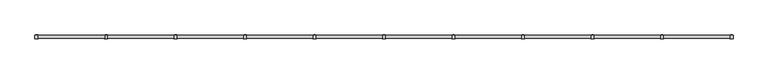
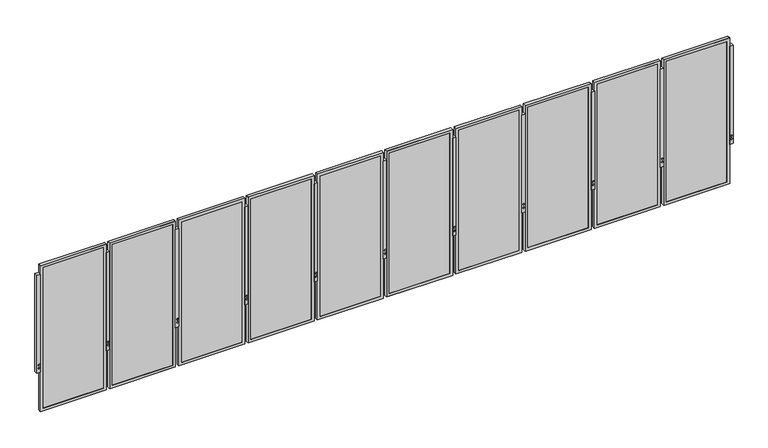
"""IFC4 building model written with IfcOpenShell, lengths in millimetres: railing geometry, Railing - Amico Architectural - Expanded Mesh Railing - Apex02."""

from ifc_helpers import new_model, si_unit, frame, origin, place, context, project, spatial, polyline, outline, extrude, faceted_brep, source, transform, mapped, element, save


def railing_57754099(model_context):
    return source(origin(), model_context, "Body", "SolidModel", [
        extrude(outline(polyline([(-3156.8501539, -22704.7707363), (-3106.0501539, -22704.7707363), (-3106.0501539, -22755.5707363), (-3156.8501539, -22755.5707363), (-3156.8501539, -22704.7707363)])), frame((0.0, 0.0, -609.6), z_axis=(0.0, 0.0, 1.0), x_axis=(1.0, 0.0, 0.0)), (0.0, 0.0, 1.0), 1524.0),
        extrude(outline(polyline([(-530.1129981, -3141.8707241), (-542.3802561, -3138.5837222), (-545.667258, -3126.3164642), (-536.6870019, -3117.3362081), (-524.4197439, -3120.6232099), (-521.132742, -3132.8904679), (-530.1129981, -3141.8707241)])), frame((0.0, -22757.4174241, 0.0), z_axis=(0.0, 1.0, 0.0), x_axis=(0.0, 0.0, 1.0)), (0.0, 0.0, 1.0), 54.4933756),
        extrude(outline(polyline([(-479.3129981, -3141.8707241), (-491.5802561, -3138.5837222), (-494.867258, -3126.3164642), (-485.8870019, -3117.3362081), (-473.6197439, -3120.6232099), (-470.332742, -3132.8904679), (-479.3129981, -3141.8707241)])), frame((0.0, -22757.4174241, 0.0), z_axis=(0.0, 1.0, 0.0), x_axis=(0.0, 0.0, 1.0)), (0.0, 0.0, 1.0), 54.4933756),
        faceted_brep([(-4123.2546073, -22751.9639363, -1222.375), (-3154.8796073, -22751.9639363, -1222.375), (-3154.8796073, -22751.9639363, 1044.575), (-4123.2546073, -22751.9639363, 1044.575), (-4081.9796073, -22751.9639363, 1003.3), (-3196.1546073, -22751.9639363, 1003.3), (-3196.1546073, -22751.9639363, -1181.1), (-4081.9796073, -22751.9639363, -1181.1), (-4081.9796073, -22749.2207363, 1003.3), (-4081.9796073, -22749.2207363, -1181.1), (-4123.2546073, -22708.0906398, 1044.575), (-4123.2546073, -22708.0906398, -1222.375), (-4120.0796073, -22708.0906398, 1041.4), (-4120.0796073, -22749.2207363, 1041.4), (-4120.0796073, -22749.2207363, -1219.2), (-4120.0796073, -22708.0906398, -1219.2), (-3196.1546073, -22749.2207363, -1181.1), (-3154.8796073, -22708.0906398, -1222.375), (-3158.0546073, -22749.2207363, -1219.2), (-3158.0546073, -22708.0906398, -1219.2), (-3196.1546073, -22749.2207363, 1003.3), (-3154.8796073, -22708.0906398, 1044.575), (-3158.0546073, -22749.2207363, 1041.4), (-3158.0546073, -22708.0906398, 1041.4)], [[[0, 1, 2, 3], [4, 5, 6, 7]], [[8, 4, 7, 9]], [[3, 10, 11, 0]], [[12, 13, 14, 15]], [[9, 7, 6, 16]], [[0, 11, 17, 1]], [[15, 14, 18, 19]], [[16, 6, 5, 20]], [[1, 17, 21, 2]], [[19, 18, 22, 23]], [[20, 5, 4, 8]], [[10, 21, 17, 11], [15, 19, 23, 12]], [[2, 21, 10, 3]], [[13, 22, 18, 14], [9, 16, 20, 8]], [[23, 22, 13, 12]]]),
        extrude(outline(polyline([(-4120.0796073, -22739.6957363), (-3158.0546073, -22739.6957363), (-3158.0546073, -22749.2207363), (-4120.0796073, -22749.2207363), (-4120.0796073, -22739.6957363)])), frame((0.0, 0.0, -1219.2), z_axis=(0.0, 0.0, 1.0), x_axis=(1.0, 0.0, 0.0)), (0.0, 0.0, 1.0), 2260.6),
        extrude(outline(polyline([(-4174.4376539, -22704.7707363), (-4123.6376539, -22704.7707363), (-4123.6376539, -22755.5707363), (-4174.4376539, -22755.5707363), (-4174.4376539, -22704.7707363)])), frame((0.0, 0.0, -609.6), z_axis=(0.0, 0.0, 1.0), x_axis=(1.0, 0.0, 0.0)), (0.0, 0.0, 1.0), 1524.0),
        extrude(outline(polyline([(-530.1129981, -4159.4582241), (-542.3802561, -4156.1712222), (-545.667258, -4143.9039642), (-536.6870019, -4134.9237081), (-524.4197439, -4138.2107099), (-521.132742, -4150.4779679), (-530.1129981, -4159.4582241)])), frame((0.0, -22757.4174241, 0.0), z_axis=(0.0, 1.0, 0.0), x_axis=(0.0, 0.0, 1.0)), (0.0, 0.0, 1.0), 54.4933756),
        extrude(outline(polyline([(-479.3129981, -4159.4582241), (-491.5802561, -4156.1712222), (-494.867258, -4143.9039642), (-485.8870019, -4134.9237081), (-473.6197439, -4138.2107099), (-470.332742, -4150.4779679), (-479.3129981, -4159.4582241)])), frame((0.0, -22757.4174241, 0.0), z_axis=(0.0, 1.0, 0.0), x_axis=(0.0, 0.0, 1.0)), (0.0, 0.0, 1.0), 54.4933756),
        faceted_brep([(-5140.8421073, -22751.9639363, -1222.375), (-4172.4671073, -22751.9639363, -1222.375), (-4172.4671073, -22751.9639363, 1044.575), (-5140.8421073, -22751.9639363, 1044.575), (-5099.5671073, -22751.9639363, 1003.3), (-4213.7421073, -22751.9639363, 1003.3), (-4213.7421073, -22751.9639363, -1181.1), (-5099.5671073, -22751.9639363, -1181.1), (-5099.5671073, -22749.2207363, 1003.3), (-5099.5671073, -22749.2207363, -1181.1), (-5140.8421073, -22708.0906398, 1044.575), (-5140.8421073, -22708.0906398, -1222.375), (-5137.6671073, -22708.0906398, 1041.4), (-5137.6671073, -22749.2207363, 1041.4), (-5137.6671073, -22749.2207363, -1219.2), (-5137.6671073, -22708.0906398, -1219.2), (-4213.7421073, -22749.2207363, -1181.1), (-4172.4671073, -22708.0906398, -1222.375), (-4175.6421073, -22749.2207363, -1219.2), (-4175.6421073, -22708.0906398, -1219.2), (-4213.7421073, -22749.2207363, 1003.3), (-4172.4671073, -22708.0906398, 1044.575), (-4175.6421073, -22749.2207363, 1041.4), (-4175.6421073, -22708.0906398, 1041.4)], [[[0, 1, 2, 3], [4, 5, 6, 7]], [[8, 4, 7, 9]], [[3, 10, 11, 0]], [[12, 13, 14, 15]], [[9, 7, 6, 16]], [[0, 11, 17, 1]], [[15, 14, 18, 19]], [[16, 6, 5, 20]], [[1, 17, 21, 2]], [[19, 18, 22, 23]], [[20, 5, 4, 8]], [[10, 21, 17, 11], [15, 19, 23, 12]], [[2, 21, 10, 3]], [[13, 22, 18, 14], [9, 16, 20, 8]], [[23, 22, 13, 12]]]),
        extrude(outline(polyline([(-5137.6671073, -22739.6957363), (-4175.6421073, -22739.6957363), (-4175.6421073, -22749.2207363), (-5137.6671073, -22749.2207363), (-5137.6671073, -22739.6957363)])), frame((0.0, 0.0, -1219.2), z_axis=(0.0, 0.0, 1.0), x_axis=(1.0, 0.0, 0.0)), (0.0, 0.0, 1.0), 2260.6),
        extrude(outline(polyline([(-5192.0251539, -22704.7707363), (-5141.2251539, -22704.7707363), (-5141.2251539, -22755.5707363), (-5192.0251539, -22755.5707363), (-5192.0251539, -22704.7707363)])), frame((0.0, 0.0, -609.6), z_axis=(0.0, 0.0, 1.0), x_axis=(1.0, 0.0, 0.0)), (0.0, 0.0, 1.0), 1524.0),
        extrude(outline(polyline([(-530.1129981, -5177.0457241), (-542.3802561, -5173.7587222), (-545.667258, -5161.4914642), (-536.6870019, -5152.5112081), (-524.4197439, -5155.7982099), (-521.132742, -5168.0654679), (-530.1129981, -5177.0457241)])), frame((0.0, -22757.4174241, 0.0), z_axis=(0.0, 1.0, 0.0), x_axis=(0.0, 0.0, 1.0)), (0.0, 0.0, 1.0), 54.4933756),
        extrude(outline(polyline([(-479.3129981, -5177.0457241), (-491.5802561, -5173.7587222), (-494.867258, -5161.4914642), (-485.8870019, -5152.5112081), (-473.6197439, -5155.7982099), (-470.332742, -5168.0654679), (-479.3129981, -5177.0457241)])), frame((0.0, -22757.4174241, 0.0), z_axis=(0.0, 1.0, 0.0), x_axis=(0.0, 0.0, 1.0)), (0.0, 0.0, 1.0), 54.4933756),
        faceted_brep([(-6158.4296073, -22751.9639363, -1222.375), (-5190.0546073, -22751.9639363, -1222.375), (-5190.0546073, -22751.9639363, 1044.575), (-6158.4296073, -22751.9639363, 1044.575), (-6117.1546073, -22751.9639363, 1003.3), (-5231.3296073, -22751.9639363, 1003.3), (-5231.3296073, -22751.9639363, -1181.1), (-6117.1546073, -22751.9639363, -1181.1), (-6117.1546073, -22749.2207363, 1003.3), (-6117.1546073, -22749.2207363, -1181.1), (-6158.4296073, -22708.0906398, 1044.575), (-6158.4296073, -22708.0906398, -1222.375), (-6155.2546073, -22708.0906398, 1041.4), (-6155.2546073, -22749.2207363, 1041.4), (-6155.2546073, -22749.2207363, -1219.2), (-6155.2546073, -22708.0906398, -1219.2), (-5231.3296073, -22749.2207363, -1181.1), (-5190.0546073, -22708.0906398, -1222.375), (-5193.2296073, -22749.2207363, -1219.2), (-5193.2296073, -22708.0906398, -1219.2), (-5231.3296073, -22749.2207363, 1003.3), (-5190.0546073, -22708.0906398, 1044.575), (-5193.2296073, -22749.2207363, 1041.4), (-5193.2296073, -22708.0906398, 1041.4)], [[[0, 1, 2, 3], [4, 5, 6, 7]], [[8, 4, 7, 9]], [[3, 10, 11, 0]], [[12, 13, 14, 15]], [[9, 7, 6, 16]], [[0, 11, 17, 1]], [[15, 14, 18, 19]], [[16, 6, 5, 20]], [[1, 17, 21, 2]], [[19, 18, 22, 23]], [[20, 5, 4, 8]], [[10, 21, 17, 11], [15, 19, 23, 12]], [[2, 21, 10, 3]], [[13, 22, 18, 14], [9, 16, 20, 8]], [[23, 22, 13, 12]]]),
        extrude(outline(polyline([(-6155.2546073, -22739.6957363), (-5193.2296073, -22739.6957363), (-5193.2296073, -22749.2207363), (-6155.2546073, -22749.2207363), (-6155.2546073, -22739.6957363)])), frame((0.0, 0.0, -1219.2), z_axis=(0.0, 0.0, 1.0), x_axis=(1.0, 0.0, 0.0)), (0.0, 0.0, 1.0), 2260.6),
        extrude(outline(polyline([(-6209.6126539, -22704.7707363), (-6158.8126539, -22704.7707363), (-6158.8126539, -22755.5707363), (-6209.6126539, -22755.5707363), (-6209.6126539, -22704.7707363)])), frame((0.0, 0.0, -609.6), z_axis=(0.0, 0.0, 1.0), x_axis=(1.0, 0.0, 0.0)), (0.0, 0.0, 1.0), 1524.0),
        extrude(outline(polyline([(-530.1129981, -6194.6332241), (-542.3802561, -6191.3462222), (-545.667258, -6179.0789642), (-536.6870019, -6170.0987081), (-524.4197439, -6173.3857099), (-521.132742, -6185.6529679), (-530.1129981, -6194.6332241)])), frame((0.0, -22757.4174241, 0.0), z_axis=(0.0, 1.0, 0.0), x_axis=(0.0, 0.0, 1.0)), (0.0, 0.0, 1.0), 54.4933756),
        extrude(outline(polyline([(-479.3129981, -6194.6332241), (-491.5802561, -6191.3462222), (-494.867258, -6179.0789642), (-485.8870019, -6170.0987081), (-473.6197439, -6173.3857099), (-470.332742, -6185.6529679), (-479.3129981, -6194.6332241)])), frame((0.0, -22757.4174241, 0.0), z_axis=(0.0, 1.0, 0.0), x_axis=(0.0, 0.0, 1.0)), (0.0, 0.0, 1.0), 54.4933756),
        faceted_brep([(-7176.0171073, -22751.9639363, -1222.375), (-6207.6421073, -22751.9639363, -1222.375), (-6207.6421073, -22751.9639363, 1044.575), (-7176.0171073, -22751.9639363, 1044.575), (-7134.7421073, -22751.9639363, 1003.3), (-6248.9171073, -22751.9639363, 1003.3), (-6248.9171073, -22751.9639363, -1181.1), (-7134.7421073, -22751.9639363, -1181.1), (-7134.7421073, -22749.2207363, 1003.3), (-7134.7421073, -22749.2207363, -1181.1), (-7176.0171073, -22708.0906398, 1044.575), (-7176.0171073, -22708.0906398, -1222.375), (-7172.8421073, -22708.0906398, 1041.4), (-7172.8421073, -22749.2207363, 1041.4), (-7172.8421073, -22749.2207363, -1219.2), (-7172.8421073, -22708.0906398, -1219.2), (-6248.9171073, -22749.2207363, -1181.1), (-6207.6421073, -22708.0906398, -1222.375), (-6210.8171073, -22749.2207363, -1219.2), (-6210.8171073, -22708.0906398, -1219.2), (-6248.9171073, -22749.2207363, 1003.3), (-6207.6421073, -22708.0906398, 1044.575), (-6210.8171073, -22749.2207363, 1041.4), (-6210.8171073, -22708.0906398, 1041.4)], [[[0, 1, 2, 3], [4, 5, 6, 7]], [[8, 4, 7, 9]], [[3, 10, 11, 0]], [[12, 13, 14, 15]], [[9, 7, 6, 16]], [[0, 11, 17, 1]], [[15, 14, 18, 19]], [[16, 6, 5, 20]], [[1, 17, 21, 2]], [[19, 18, 22, 23]], [[20, 5, 4, 8]], [[10, 21, 17, 11], [15, 19, 23, 12]], [[2, 21, 10, 3]], [[13, 22, 18, 14], [9, 16, 20, 8]], [[23, 22, 13, 12]]]),
        extrude(outline(polyline([(-7172.8421073, -22739.6957363), (-6210.8171073, -22739.6957363), (-6210.8171073, -22749.2207363), (-7172.8421073, -22749.2207363), (-7172.8421073, -22739.6957363)])), frame((0.0, 0.0, -1219.2), z_axis=(0.0, 0.0, 1.0), x_axis=(1.0, 0.0, 0.0)), (0.0, 0.0, 1.0), 2260.6),
        extrude(outline(polyline([(-7227.2001539, -22704.7707363), (-7176.4001539, -22704.7707363), (-7176.4001539, -22755.5707363), (-7227.2001539, -22755.5707363), (-7227.2001539, -22704.7707363)])), frame((0.0, 0.0, -609.6), z_axis=(0.0, 0.0, 1.0), x_axis=(1.0, 0.0, 0.0)), (0.0, 0.0, 1.0), 1524.0),
        extrude(outline(polyline([(-530.1129981, -7212.2207241), (-542.3802561, -7208.9337222), (-545.667258, -7196.6664642), (-536.6870019, -7187.6862081), (-524.4197439, -7190.9732099), (-521.132742, -7203.2404679), (-530.1129981, -7212.2207241)])), frame((0.0, -22757.4174241, 0.0), z_axis=(0.0, 1.0, 0.0), x_axis=(0.0, 0.0, 1.0)), (0.0, 0.0, 1.0), 54.4933756),
        extrude(outline(polyline([(-479.3129981, -7212.2207241), (-491.5802561, -7208.9337222), (-494.867258, -7196.6664642), (-485.8870019, -7187.6862081), (-473.6197439, -7190.9732099), (-470.332742, -7203.2404679), (-479.3129981, -7212.2207241)])), frame((0.0, -22757.4174241, 0.0), z_axis=(0.0, 1.0, 0.0), x_axis=(0.0, 0.0, 1.0)), (0.0, 0.0, 1.0), 54.4933756),
        faceted_brep([(-8193.6046073, -22751.9639363, -1222.375), (-7225.2296073, -22751.9639363, -1222.375), (-7225.2296073, -22751.9639363, 1044.575), (-8193.6046073, -22751.9639363, 1044.575), (-8152.3296073, -22751.9639363, 1003.3), (-7266.5046073, -22751.9639363, 1003.3), (-7266.5046073, -22751.9639363, -1181.1), (-8152.3296073, -22751.9639363, -1181.1), (-8152.3296073, -22749.2207363, 1003.3), (-8152.3296073, -22749.2207363, -1181.1), (-8193.6046073, -22708.0906398, 1044.575), (-8193.6046073, -22708.0906398, -1222.375), (-8190.4296073, -22708.0906398, 1041.4), (-8190.4296073, -22749.2207363, 1041.4), (-8190.4296073, -22749.2207363, -1219.2), (-8190.4296073, -22708.0906398, -1219.2), (-7266.5046073, -22749.2207363, -1181.1), (-7225.2296073, -22708.0906398, -1222.375), (-7228.4046073, -22749.2207363, -1219.2), (-7228.4046073, -22708.0906398, -1219.2), (-7266.5046073, -22749.2207363, 1003.3), (-7225.2296073, -22708.0906398, 1044.575), (-7228.4046073, -22749.2207363, 1041.4), (-7228.4046073, -22708.0906398, 1041.4)], [[[0, 1, 2, 3], [4, 5, 6, 7]], [[8, 4, 7, 9]], [[3, 10, 11, 0]], [[12, 13, 14, 15]], [[9, 7, 6, 16]], [[0, 11, 17, 1]], [[15, 14, 18, 19]], [[16, 6, 5, 20]], [[1, 17, 21, 2]], [[19, 18, 22, 23]], [[20, 5, 4, 8]], [[10, 21, 17, 11], [15, 19, 23, 12]], [[2, 21, 10, 3]], [[13, 22, 18, 14], [9, 16, 20, 8]], [[23, 22, 13, 12]]]),
        extrude(outline(polyline([(-8190.4296073, -22739.6957363), (-7228.4046073, -22739.6957363), (-7228.4046073, -22749.2207363), (-8190.4296073, -22749.2207363), (-8190.4296073, -22739.6957363)])), frame((0.0, 0.0, -1219.2), z_axis=(0.0, 0.0, 1.0), x_axis=(1.0, 0.0, 0.0)), (0.0, 0.0, 1.0), 2260.6),
        extrude(outline(polyline([(-8244.7876539, -22704.7707363), (-8193.9876539, -22704.7707363), (-8193.9876539, -22755.5707363), (-8244.7876539, -22755.5707363), (-8244.7876539, -22704.7707363)])), frame((0.0, 0.0, -609.6), z_axis=(0.0, 0.0, 1.0), x_axis=(1.0, 0.0, 0.0)), (0.0, 0.0, 1.0), 1524.0),
        extrude(outline(polyline([(-530.1129981, -8229.8082241), (-542.3802561, -8226.5212222), (-545.667258, -8214.2539642), (-536.6870019, -8205.2737081), (-524.4197439, -8208.5607099), (-521.132742, -8220.8279679), (-530.1129981, -8229.8082241)])), frame((0.0, -22757.4174241, 0.0), z_axis=(0.0, 1.0, 0.0), x_axis=(0.0, 0.0, 1.0)), (0.0, 0.0, 1.0), 54.4933756),
        extrude(outline(polyline([(-479.3129981, -8229.8082241), (-491.5802561, -8226.5212222), (-494.867258, -8214.2539642), (-485.8870019, -8205.2737081), (-473.6197439, -8208.5607099), (-470.332742, -8220.8279679), (-479.3129981, -8229.8082241)])), frame((0.0, -22757.4174241, 0.0), z_axis=(0.0, 1.0, 0.0), x_axis=(0.0, 0.0, 1.0)), (0.0, 0.0, 1.0), 54.4933756),
        faceted_brep([(-9211.1921073, -22751.9639363, -1222.375), (-8242.8171073, -22751.9639363, -1222.375), (-8242.8171073, -22751.9639363, 1044.575), (-9211.1921073, -22751.9639363, 1044.575), (-9169.9171073, -22751.9639363, 1003.3), (-8284.0921073, -22751.9639363, 1003.3), (-8284.0921073, -22751.9639363, -1181.1), (-9169.9171073, -22751.9639363, -1181.1), (-9169.9171073, -22749.2207363, 1003.3), (-9169.9171073, -22749.2207363, -1181.1), (-9211.1921073, -22708.0906398, 1044.575), (-9211.1921073, -22708.0906398, -1222.375), (-9208.0171073, -22708.0906398, 1041.4), (-9208.0171073, -22749.2207363, 1041.4), (-9208.0171073, -22749.2207363, -1219.2), (-9208.0171073, -22708.0906398, -1219.2), (-8284.0921073, -22749.2207363, -1181.1), (-8242.8171073, -22708.0906398, -1222.375), (-8245.9921073, -22749.2207363, -1219.2), (-8245.9921073, -22708.0906398, -1219.2), (-8284.0921073, -22749.2207363, 1003.3), (-8242.8171073, -22708.0906398, 1044.575), (-8245.9921073, -22749.2207363, 1041.4), (-8245.9921073, -22708.0906398, 1041.4)], [[[0, 1, 2, 3], [4, 5, 6, 7]], [[8, 4, 7, 9]], [[3, 10, 11, 0]], [[12, 13, 14, 15]], [[9, 7, 6, 16]], [[0, 11, 17, 1]], [[15, 14, 18, 19]], [[16, 6, 5, 20]], [[1, 17, 21, 2]], [[19, 18, 22, 23]], [[20, 5, 4, 8]], [[10, 21, 17, 11], [15, 19, 23, 12]], [[2, 21, 10, 3]], [[13, 22, 18, 14], [9, 16, 20, 8]], [[23, 22, 13, 12]]]),
        extrude(outline(polyline([(-9208.0171073, -22739.6957363), (-8245.9921073, -22739.6957363), (-8245.9921073, -22749.2207363), (-9208.0171073, -22749.2207363), (-9208.0171073, -22739.6957363)])), frame((0.0, 0.0, -1219.2), z_axis=(0.0, 0.0, 1.0), x_axis=(1.0, 0.0, 0.0)), (0.0, 0.0, 1.0), 2260.6),
        extrude(outline(polyline([(-9262.3751539, -22704.7707363), (-9211.5751539, -22704.7707363), (-9211.5751539, -22755.5707363), (-9262.3751539, -22755.5707363), (-9262.3751539, -22704.7707363)])), frame((0.0, 0.0, -609.6), z_axis=(0.0, 0.0, 1.0), x_axis=(1.0, 0.0, 0.0)), (0.0, 0.0, 1.0), 1524.0),
        extrude(outline(polyline([(-530.1129981, -9247.3957241), (-542.3802561, -9244.1087222), (-545.667258, -9231.8414642), (-536.6870019, -9222.8612081), (-524.4197439, -9226.1482099), (-521.132742, -9238.4154679), (-530.1129981, -9247.3957241)])), frame((0.0, -22757.4174241, 0.0), z_axis=(0.0, 1.0, 0.0), x_axis=(0.0, 0.0, 1.0)), (0.0, 0.0, 1.0), 54.4933756),
        extrude(outline(polyline([(-479.3129981, -9247.3957241), (-491.5802561, -9244.1087222), (-494.867258, -9231.8414642), (-485.8870019, -9222.8612081), (-473.6197439, -9226.1482099), (-470.332742, -9238.4154679), (-479.3129981, -9247.3957241)])), frame((0.0, -22757.4174241, 0.0), z_axis=(0.0, 1.0, 0.0), x_axis=(0.0, 0.0, 1.0)), (0.0, 0.0, 1.0), 54.4933756),
        faceted_brep([(-10228.7796073, -22751.9639363, -1222.375), (-9260.4046073, -22751.9639363, -1222.375), (-9260.4046073, -22751.9639363, 1044.575), (-10228.7796073, -22751.9639363, 1044.575), (-10187.5046073, -22751.9639363, 1003.3), (-9301.6796073, -22751.9639363, 1003.3), (-9301.6796073, -22751.9639363, -1181.1), (-10187.5046073, -22751.9639363, -1181.1), (-10187.5046073, -22749.2207363, 1003.3), (-10187.5046073, -22749.2207363, -1181.1), (-10228.7796073, -22708.0906398, 1044.575), (-10228.7796073, -22708.0906398, -1222.375), (-10225.6046073, -22708.0906398, 1041.4), (-10225.6046073, -22749.2207363, 1041.4), (-10225.6046073, -22749.2207363, -1219.2), (-10225.6046073, -22708.0906398, -1219.2), (-9301.6796073, -22749.2207363, -1181.1), (-9260.4046073, -22708.0906398, -1222.375), (-9263.5796073, -22749.2207363, -1219.2), (-9263.5796073, -22708.0906398, -1219.2), (-9301.6796073, -22749.2207363, 1003.3), (-9260.4046073, -22708.0906398, 1044.575), (-9263.5796073, -22749.2207363, 1041.4), (-9263.5796073, -22708.0906398, 1041.4)], [[[0, 1, 2, 3], [4, 5, 6, 7]], [[8, 4, 7, 9]], [[3, 10, 11, 0]], [[12, 13, 14, 15]], [[9, 7, 6, 16]], [[0, 11, 17, 1]], [[15, 14, 18, 19]], [[16, 6, 5, 20]], [[1, 17, 21, 2]], [[19, 18, 22, 23]], [[20, 5, 4, 8]], [[10, 21, 17, 11], [15, 19, 23, 12]], [[2, 21, 10, 3]], [[13, 22, 18, 14], [9, 16, 20, 8]], [[23, 22, 13, 12]]]),
        extrude(outline(polyline([(-10225.6046073, -22739.6957363), (-9263.5796073, -22739.6957363), (-9263.5796073, -22749.2207363), (-10225.6046073, -22749.2207363), (-10225.6046073, -22739.6957363)])), frame((0.0, 0.0, -1219.2), z_axis=(0.0, 0.0, 1.0), x_axis=(1.0, 0.0, 0.0)), (0.0, 0.0, 1.0), 2260.6),
        extrude(outline(polyline([(-10279.9626539, -22704.7707363), (-10229.1626539, -22704.7707363), (-10229.1626539, -22755.5707363), (-10279.9626539, -22755.5707363), (-10279.9626539, -22704.7707363)])), frame((0.0, 0.0, -609.6), z_axis=(0.0, 0.0, 1.0), x_axis=(1.0, 0.0, 0.0)), (0.0, 0.0, 1.0), 1524.0),
        extrude(outline(polyline([(-530.1129981, -10264.9832241), (-542.3802561, -10261.6962222), (-545.667258, -10249.4289642), (-536.6870019, -10240.4487081), (-524.4197439, -10243.7357099), (-521.132742, -10256.0029679), (-530.1129981, -10264.9832241)])), frame((0.0, -22757.4174241, 0.0), z_axis=(0.0, 1.0, 0.0), x_axis=(0.0, 0.0, 1.0)), (0.0, 0.0, 1.0), 54.4933756),
        extrude(outline(polyline([(-479.3129981, -10264.9832241), (-491.5802561, -10261.6962222), (-494.867258, -10249.4289642), (-485.8870019, -10240.4487081), (-473.6197439, -10243.7357099), (-470.332742, -10256.0029679), (-479.3129981, -10264.9832241)])), frame((0.0, -22757.4174241, 0.0), z_axis=(0.0, 1.0, 0.0), x_axis=(0.0, 0.0, 1.0)), (0.0, 0.0, 1.0), 54.4933756),
        faceted_brep([(-11246.3671073, -22751.9639363, -1222.375), (-10277.9921073, -22751.9639363, -1222.375), (-10277.9921073, -22751.9639363, 1044.575), (-11246.3671073, -22751.9639363, 1044.575), (-11205.0921073, -22751.9639363, 1003.3), (-10319.2671073, -22751.9639363, 1003.3), (-10319.2671073, -22751.9639363, -1181.1), (-11205.0921073, -22751.9639363, -1181.1), (-11205.0921073, -22749.2207363, 1003.3), (-11205.0921073, -22749.2207363, -1181.1), (-11246.3671073, -22708.0906398, 1044.575), (-11246.3671073, -22708.0906398, -1222.375), (-11243.1921073, -22708.0906398, 1041.4), (-11243.1921073, -22749.2207363, 1041.4), (-11243.1921073, -22749.2207363, -1219.2), (-11243.1921073, -22708.0906398, -1219.2), (-10319.2671073, -22749.2207363, -1181.1), (-10277.9921073, -22708.0906398, -1222.375), (-10281.1671073, -22749.2207363, -1219.2), (-10281.1671073, -22708.0906398, -1219.2), (-10319.2671073, -22749.2207363, 1003.3), (-10277.9921073, -22708.0906398, 1044.575), (-10281.1671073, -22749.2207363, 1041.4), (-10281.1671073, -22708.0906398, 1041.4)], [[[0, 1, 2, 3], [4, 5, 6, 7]], [[8, 4, 7, 9]], [[3, 10, 11, 0]], [[12, 13, 14, 15]], [[9, 7, 6, 16]], [[0, 11, 17, 1]], [[15, 14, 18, 19]], [[16, 6, 5, 20]], [[1, 17, 21, 2]], [[19, 18, 22, 23]], [[20, 5, 4, 8]], [[10, 21, 17, 11], [15, 19, 23, 12]], [[2, 21, 10, 3]], [[13, 22, 18, 14], [9, 16, 20, 8]], [[23, 22, 13, 12]]]),
        extrude(outline(polyline([(-11243.1921073, -22739.6957363), (-10281.1671073, -22739.6957363), (-10281.1671073, -22749.2207363), (-11243.1921073, -22749.2207363), (-11243.1921073, -22739.6957363)])), frame((0.0, 0.0, -1219.2), z_axis=(0.0, 0.0, 1.0), x_axis=(1.0, 0.0, 0.0)), (0.0, 0.0, 1.0), 2260.6),
        extrude(outline(polyline([(-11297.5501539, -22704.7707363), (-11246.7501539, -22704.7707363), (-11246.7501539, -22755.5707363), (-11297.5501539, -22755.5707363), (-11297.5501539, -22704.7707363)])), frame((0.0, 0.0, -609.6), z_axis=(0.0, 0.0, 1.0), x_axis=(1.0, 0.0, 0.0)), (0.0, 0.0, 1.0), 1524.0),
        extrude(outline(polyline([(-530.1129981, -11282.5707241), (-542.3802561, -11279.2837222), (-545.667258, -11267.0164642), (-536.6870019, -11258.0362081), (-524.4197439, -11261.3232099), (-521.132742, -11273.5904679), (-530.1129981, -11282.5707241)])), frame((0.0, -22757.4174241, 0.0), z_axis=(0.0, 1.0, 0.0), x_axis=(0.0, 0.0, 1.0)), (0.0, 0.0, 1.0), 54.4933756),
        extrude(outline(polyline([(-479.3129981, -11282.5707241), (-491.5802561, -11279.2837222), (-494.867258, -11267.0164642), (-485.8870019, -11258.0362081), (-473.6197439, -11261.3232099), (-470.332742, -11273.5904679), (-479.3129981, -11282.5707241)])), frame((0.0, -22757.4174241, 0.0), z_axis=(0.0, 1.0, 0.0), x_axis=(0.0, 0.0, 1.0)), (0.0, 0.0, 1.0), 54.4933756),
        faceted_brep([(-12263.9546073, -22751.9639363, -1222.375), (-11295.5796073, -22751.9639363, -1222.375), (-11295.5796073, -22751.9639363, 1044.575), (-12263.9546073, -22751.9639363, 1044.575), (-12222.6796073, -22751.9639363, 1003.3), (-11336.8546073, -22751.9639363, 1003.3), (-11336.8546073, -22751.9639363, -1181.1), (-12222.6796073, -22751.9639363, -1181.1), (-12222.6796073, -22749.2207363, 1003.3), (-12222.6796073, -22749.2207363, -1181.1), (-12263.9546073, -22708.0906398, 1044.575), (-12263.9546073, -22708.0906398, -1222.375), (-12260.7796073, -22708.0906398, 1041.4), (-12260.7796073, -22749.2207363, 1041.4), (-12260.7796073, -22749.2207363, -1219.2), (-12260.7796073, -22708.0906398, -1219.2), (-11336.8546073, -22749.2207363, -1181.1), (-11295.5796073, -22708.0906398, -1222.375), (-11298.7546073, -22749.2207363, -1219.2), (-11298.7546073, -22708.0906398, -1219.2), (-11336.8546073, -22749.2207363, 1003.3), (-11295.5796073, -22708.0906398, 1044.575), (-11298.7546073, -22749.2207363, 1041.4), (-11298.7546073, -22708.0906398, 1041.4)], [[[0, 1, 2, 3], [4, 5, 6, 7]], [[8, 4, 7, 9]], [[3, 10, 11, 0]], [[12, 13, 14, 15]], [[9, 7, 6, 16]], [[0, 11, 17, 1]], [[15, 14, 18, 19]], [[16, 6, 5, 20]], [[1, 17, 21, 2]], [[19, 18, 22, 23]], [[20, 5, 4, 8]], [[10, 21, 17, 11], [15, 19, 23, 12]], [[2, 21, 10, 3]], [[13, 22, 18, 14], [9, 16, 20, 8]], [[23, 22, 13, 12]]]),
        extrude(outline(polyline([(-12260.7796073, -22739.6957363), (-11298.7546073, -22739.6957363), (-11298.7546073, -22749.2207363), (-12260.7796073, -22749.2207363), (-12260.7796073, -22739.6957363)])), frame((0.0, 0.0, -1219.2), z_axis=(0.0, 0.0, 1.0), x_axis=(1.0, 0.0, 0.0)), (0.0, 0.0, 1.0), 2260.6),
        extrude(outline(polyline([(-12315.1376539, -22704.7707363), (-12264.3376539, -22704.7707363), (-12264.3376539, -22755.5707363), (-12315.1376539, -22755.5707363), (-12315.1376539, -22704.7707363)])), frame((0.0, 0.0, -609.6), z_axis=(0.0, 0.0, 1.0), x_axis=(1.0, 0.0, 0.0)), (0.0, 0.0, 1.0), 1524.0),
        extrude(outline(polyline([(-530.1129981, -12300.1582241), (-542.3802561, -12296.8712222), (-545.667258, -12284.6039642), (-536.6870019, -12275.6237081), (-524.4197439, -12278.9107099), (-521.132742, -12291.1779679), (-530.1129981, -12300.1582241)])), frame((0.0, -22757.4174241, 0.0), z_axis=(0.0, 1.0, 0.0), x_axis=(0.0, 0.0, 1.0)), (0.0, 0.0, 1.0), 54.4933756),
        extrude(outline(polyline([(-479.3129981, -12300.1582241), (-491.5802561, -12296.8712222), (-494.867258, -12284.6039642), (-485.8870019, -12275.6237081), (-473.6197439, -12278.9107099), (-470.332742, -12291.1779679), (-479.3129981, -12300.1582241)])), frame((0.0, -22757.4174241, 0.0), z_axis=(0.0, 1.0, 0.0), x_axis=(0.0, 0.0, 1.0)), (0.0, 0.0, 1.0), 54.4933756),
        faceted_brep([(-13281.5421073, -22751.9639363, -1222.375), (-12313.1671073, -22751.9639363, -1222.375), (-12313.1671073, -22751.9639363, 1044.575), (-13281.5421073, -22751.9639363, 1044.575), (-13240.2671073, -22751.9639363, 1003.3), (-12354.4421073, -22751.9639363, 1003.3), (-12354.4421073, -22751.9639363, -1181.1), (-13240.2671073, -22751.9639363, -1181.1), (-13240.2671073, -22749.2207363, 1003.3), (-13240.2671073, -22749.2207363, -1181.1), (-13281.5421073, -22708.0906398, 1044.575), (-13281.5421073, -22708.0906398, -1222.375), (-13278.3671073, -22708.0906398, 1041.4), (-13278.3671073, -22749.2207363, 1041.4), (-13278.3671073, -22749.2207363, -1219.2), (-13278.3671073, -22708.0906398, -1219.2), (-12354.4421073, -22749.2207363, -1181.1), (-12313.1671073, -22708.0906398, -1222.375), (-12316.3421073, -22749.2207363, -1219.2), (-12316.3421073, -22708.0906398, -1219.2), (-12354.4421073, -22749.2207363, 1003.3), (-12313.1671073, -22708.0906398, 1044.575), (-12316.3421073, -22749.2207363, 1041.4), (-12316.3421073, -22708.0906398, 1041.4)], [[[0, 1, 2, 3], [4, 5, 6, 7]], [[8, 4, 7, 9]], [[3, 10, 11, 0]], [[12, 13, 14, 15]], [[9, 7, 6, 16]], [[0, 11, 17, 1]], [[15, 14, 18, 19]], [[16, 6, 5, 20]], [[1, 17, 21, 2]], [[19, 18, 22, 23]], [[20, 5, 4, 8]], [[10, 21, 17, 11], [15, 19, 23, 12]], [[2, 21, 10, 3]], [[13, 22, 18, 14], [9, 16, 20, 8]], [[23, 22, 13, 12]]]),
        extrude(outline(polyline([(-13278.3671073, -22739.6957363), (-12316.3421073, -22739.6957363), (-12316.3421073, -22749.2207363), (-13278.3671073, -22749.2207363), (-13278.3671073, -22739.6957363)])), frame((0.0, 0.0, -1219.2), z_axis=(0.0, 0.0, 1.0), x_axis=(1.0, 0.0, 0.0)), (0.0, 0.0, 1.0), 2260.6),
        extrude(outline(polyline([(-13332.7251539, -22704.7707363), (-13281.9251539, -22704.7707363), (-13281.9251539, -22755.5707363), (-13332.7251539, -22755.5707363), (-13332.7251539, -22704.7707363)])), frame((0.0, 0.0, -609.6), z_axis=(0.0, 0.0, 1.0), x_axis=(1.0, 0.0, 0.0)), (0.0, 0.0, 1.0), 1524.0),
        extrude(outline(polyline([(-530.1129981, -13317.7457241), (-542.3802561, -13314.4587222), (-545.667258, -13302.1914642), (-536.6870019, -13293.2112081), (-524.4197439, -13296.4982099), (-521.132742, -13308.7654679), (-530.1129981, -13317.7457241)])), frame((0.0, -22757.4174241, 0.0), z_axis=(0.0, 1.0, 0.0), x_axis=(0.0, 0.0, 1.0)), (0.0, 0.0, 1.0), 54.4933756),
        extrude(outline(polyline([(-479.3129981, -13317.7457241), (-491.5802561, -13314.4587222), (-494.867258, -13302.1914642), (-485.8870019, -13293.2112081), (-473.6197439, -13296.4982099), (-470.332742, -13308.7654679), (-479.3129981, -13317.7457241)])), frame((0.0, -22757.4174241, 0.0), z_axis=(0.0, 1.0, 0.0), x_axis=(0.0, 0.0, 1.0)), (0.0, 0.0, 1.0), 54.4933756),
    ])


if __name__ == "__main__":
    model = new_model("IFC4")
    model_context = context("Model", 3, world=origin())
    ifc_project = project(units=[si_unit("LENGTHUNIT", "METRE", prefix="MILLI")], contexts=[model_context])
    site = spatial("IfcSite", under=ifc_project)
    building = spatial("IfcBuilding", under=site)
    placement = place(None, origin())
    railing_shape = railing_57754099(model_context)
    element("IfcRailing", 1, ObjectType="Railing - Amico Architectural - Expanded Mesh Railing - Apex02", at=placement, inside=building, context=model_context, shape_type="MappedRepresentation", body=[
        mapped(railing_shape, transform((0.0, 0.0, 0.0), x_axis=(1.0, 0.0, 0.0), y_axis=(0.0, 1.0, 0.0), z_axis=(0.0, 0.0, 1.0))),
    ])
    save(model, "model.ifc")
